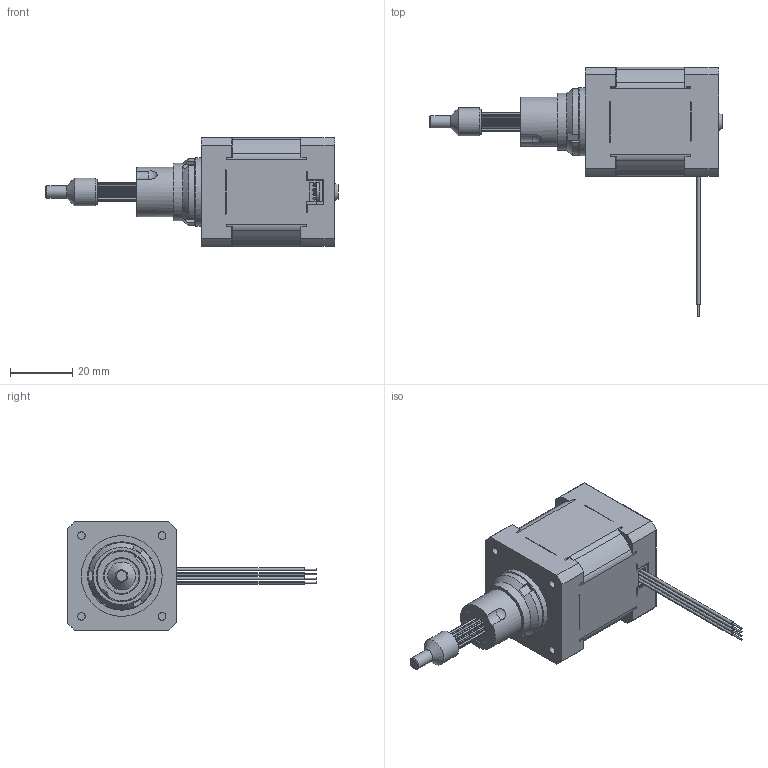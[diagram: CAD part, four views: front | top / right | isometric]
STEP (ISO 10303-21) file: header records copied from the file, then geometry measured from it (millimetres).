
FILE_DESCRIPTION( ('This file contains a STEP AP42 implementation' ,'as created by ZW3D STEP Interface translator.' ,'') ,'2;1' );
FILE_NAME( '35CC4X-XX-XXX-302.stp' ,'251231.164058', (''), ('ZWCAD Software Co.'), 'Version 1.0', 'ZW3D to STEP translator', '' );
FILE_SCHEMA(('AUTOMOTIVE_DESIGN { 1 0 10303 214 1 1 1 1 }'));
Length unit declared in the file: millimetre
Products named in the file (1): 0
Bounding box: 94.1 x 80.25 x 35 mm (x, y, z)
Volume: 27691 mm3; surface area: 28488 mm2
Topology: 1 solids, 5 shells, 1041 faces, 2922 edges, 1851 vertices
Faces by surface type: plane 472, cylinder 409, bspline 64, torus 57, cone 29, sphere 10
Full cylindrical faces by diameter (mm): 0.5 x12, 1 x2, 1.2 x8, 2.5 x4, 3.2 x4, 3.4 x4, 3.94 x1, 4 x1, 5.8 x4, 6.35 x1, 9 x1, 9.2 x1, 11.13 x2, 11.5 x1, 14.8 x1, 15.88 x3, 16 x2, 16.5 x1, 18.5 x1, 20.5 x1, 22 x1, 26 x1
Entity records: 36748 total; most frequent: CARTESIAN_POINT 8053, DIRECTION 5966, ORIENTED_EDGE 5840, EDGE_CURVE 2924, AXIS2_PLACEMENT_3D 2227, VERTEX_POINT 1853, VECTOR 1512, LINE 1512
